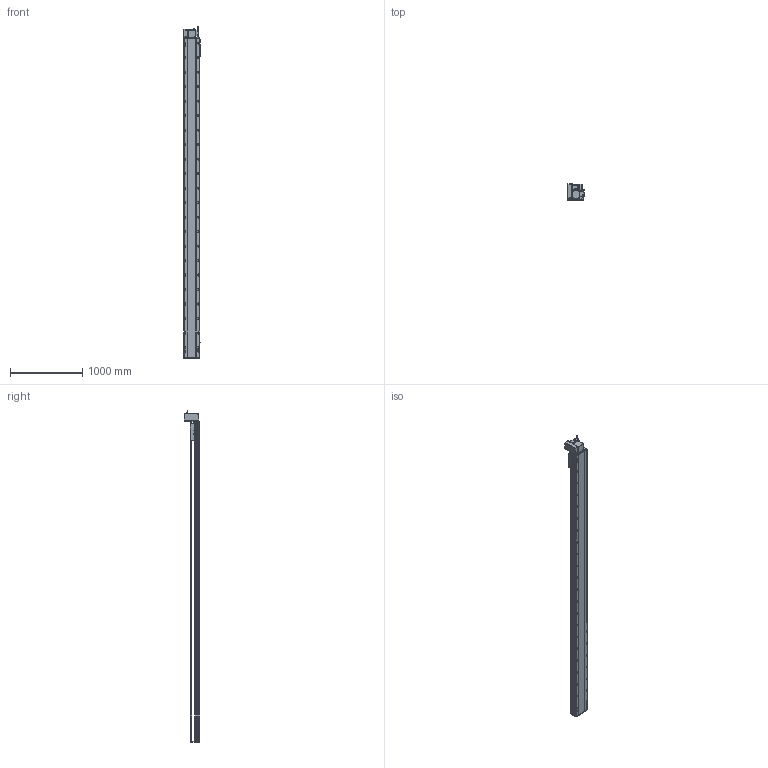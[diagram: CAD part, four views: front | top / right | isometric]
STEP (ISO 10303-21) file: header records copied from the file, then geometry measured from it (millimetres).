
FILE_DESCRIPTION (( 'STEP AP214' ), '1' );
FILE_NAME ('RTB22S-XX-4050-LW-M75-C4.STEP', '2025-12-12T07:11:29', ( '' ), ( '' ), 'SwSTEP 2.0', 'SolidWorks 2018', '' );
FILE_SCHEMA (( 'AUTOMOTIVE_DESIGN' ));
Length unit declared in the file: millimetre
Products named in the file (14): RTB22S-L-004賑釱^RTB22S-XX-XX-LW-M75-C4; RTB22S-GY-007奻裔^RTB22S-XX-XX-LW-M75-C4; OMRON EE-SX672 传感器^RTB22S-XX-XX-LW-M75-C4; RTH22-GY-013外置感应片^RTB22S-XX-XX-LW-M75-C4; RTB22S-XX-4050-LW-M75-C4; RTB22S-GY-008-M75--萇儂啣^RTB22S-LW-々湍釱蚾饜_RTB22S-XX-XX-LW-M75-C4; RTB22S-GY-001耜裔^RTB22S-XX-XX-LW-M75-C4; RTB22S-L-011菁釱^RTB22S-XX-XX-LW-M75-C4; RTB22S-GY-018P^RTB22S-LW-々湍釱蚾饜_RTB22S-XX-XX-LW-M75-C4; RTB22S-GY-005P^RTB22S-LW-々湍釱蚾饜_RTB22S-XX-XX-LW-M75-C4; RTB22S-GY-014--々湍釱^RTB22S-LW-々湍釱蚾饜_RTB22S-XX-XX-LW-M75-C4; 750W萇儂^RTB22S-XX-XX-LW-M75-C4; RTB22S-LW-々湍釱蚾饜^RTB22S-XX-XX-LW-M75-C4; RTB22S-GY-017P^RTB22S-LW-々湍釱蚾饜_RTB22S-XX-XX-LW-M75-C4
Assembly tree (16 placements, depth 3):
  RTB22S-XX-4050-LW-M75-C4
    RTB22S-L-011菁釱^RTB22S-XX-XX-LW-M75-C4
    RTB22S-GY-001耜裔^RTB22S-XX-XX-LW-M75-C4
    750W萇儂^RTB22S-XX-XX-LW-M75-C4
    RTB22S-GY-007奻裔^RTB22S-XX-XX-LW-M75-C4
    RTB22S-L-004賑釱^RTB22S-XX-XX-LW-M75-C4
    RTH22-GY-013外置感应片^RTB22S-XX-XX-LW-M75-C4
    OMRON EE-SX672 传感器^RTB22S-XX-XX-LW-M75-C4  x3
    RTB22S-LW-々湍釱蚾饜^RTB22S-XX-XX-LW-M75-C4
      RTB22S-GY-014--々湍釱^RTB22S-LW-々湍釱蚾饜_RTB22S-XX-XX-LW-M75-C4
      RTB22S-GY-017P^RTB22S-LW-々湍釱蚾饜_RTB22S-XX-XX-LW-M75-C4  x2
      RTB22S-GY-005P^RTB22S-LW-々湍釱蚾饜_RTB22S-XX-XX-LW-M75-C4
      RTB22S-GY-008-M75--萇儂啣^RTB22S-LW-々湍釱蚾饜_RTB22S-XX-XX-LW-M75-C4
      RTB22S-GY-018P^RTB22S-LW-々湍釱蚾饜_RTB22S-XX-XX-LW-M75-C4
Bounding box: 238.5 x 215.5 x 4582.2 mm (x, y, z)
Volume: 56817308.9 mm3; surface area: 5770912.1 mm2
Topology: 15 solids, 15 shells, 2253 faces, 6136 edges, 3902 vertices
Faces by surface type: plane 945, cylinder 802, bspline 296, cone 198, sphere 8, torus 4
Entity records: 62638 total; most frequent: CARTESIAN_POINT 17392, ORIENTED_EDGE 8940, DIRECTION 8864, EDGE_CURVE 4470, AXIS2_PLACEMENT_3D 3226, VERTEX_POINT 2906, VECTOR 2412, LINE 2412
